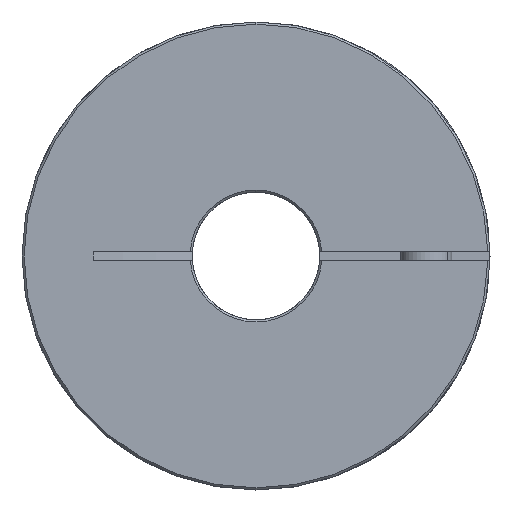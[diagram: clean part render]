
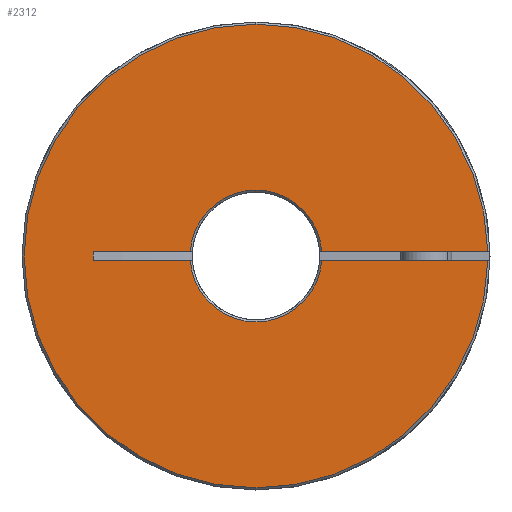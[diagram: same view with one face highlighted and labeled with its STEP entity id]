
A CAD part, left-side view. The second image highlights one B-rep face of the part: STEP entity #2312.
In plain terms, the highlighted planar face has unit normal (-1, 0, 0).
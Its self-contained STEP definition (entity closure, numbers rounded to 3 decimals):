
#17 = EDGE_CURVE ( 'NONE', #3332, #3143, #610, .T. ) ;
#56 = VERTEX_POINT ( 'NONE', #862 ) ;
#79 = EDGE_CURVE ( 'NONE', #56, #97, #1018, .T. ) ;
#82 = ORIENTED_EDGE ( 'NONE', *, *, #271, .F. ) ;
#85 = EDGE_CURVE ( 'NONE', #256, #925, #1086, .T. ) ;
#97 = VERTEX_POINT ( 'NONE', #1183 ) ;
#101 = ORIENTED_EDGE ( 'NONE', *, *, #79, .F. ) ;
#113 = VERTEX_POINT ( 'NONE', #1307 ) ;
#118 = EDGE_CURVE ( 'NONE', #227, #119, #1330, .T. ) ;
#119 = VERTEX_POINT ( 'NONE', #1352 ) ;
#128 = EDGE_CURVE ( 'NONE', #56, #113, #1441, .T. ) ;
#152 = ORIENTED_EDGE ( 'NONE', *, *, #128, .T. ) ;
#200 = EDGE_CURVE ( 'NONE', #925, #227, #2050, .T. ) ;
#216 = ORIENTED_EDGE ( 'NONE', *, *, #85, .T. ) ;
#224 = ORIENTED_EDGE ( 'NONE', *, *, #200, .T. ) ;
#227 = VERTEX_POINT ( 'NONE', #2292 ) ;
#256 = VERTEX_POINT ( 'NONE', #2451 ) ;
#271 = EDGE_CURVE ( 'NONE', #256, #113, #2575, .T. ) ;
#454 = ORIENTED_EDGE ( 'NONE', *, *, #118, .T. ) ;
#538 = ORIENTED_EDGE ( 'NONE', *, *, #2703, .T. ) ;
#540 = CARTESIAN_POINT ( 'NONE',  ( 0., -54.491, 1. ) ) ;
#610 = CIRCLE ( 'NONE', #611, 54.5 ) ;
#611 = AXIS2_PLACEMENT_3D ( 'NONE', #612, #615, #616 ) ;
#612 = CARTESIAN_POINT ( 'NONE',  ( 0., 0., 0. ) ) ;
#615 = DIRECTION ( 'NONE',  ( -1., 0., 0. ) ) ;
#616 = DIRECTION ( 'NONE',  ( 0., 0., -1. ) ) ;
#679 = LINE ( 'NONE', #680, #681 ) ;
#680 = CARTESIAN_POINT ( 'NONE',  ( 0., 15., 1. ) ) ;
#681 = VECTOR ( 'NONE', #682, 1000. ) ;
#682 = DIRECTION ( 'NONE',  ( 0., -1., 0. ) ) ;
#862 = CARTESIAN_POINT ( 'NONE',  ( 0., -15.468, -1. ) ) ;
#925 = VERTEX_POINT ( 'NONE', #1291 ) ;
#1018 = LINE ( 'NONE', #1019, #1020 ) ;
#1019 = CARTESIAN_POINT ( 'NONE',  ( 0., 15., -1. ) ) ;
#1020 = VECTOR ( 'NONE', #1021, 1000. ) ;
#1021 = DIRECTION ( 'NONE',  ( 0., -1., 0. ) ) ;
#1054 = ORIENTED_EDGE ( 'NONE', *, *, #17, .T. ) ;
#1086 = LINE ( 'NONE', #1087, #1088 ) ;
#1087 = CARTESIAN_POINT ( 'NONE',  ( 0., 38.303, -1. ) ) ;
#1088 = VECTOR ( 'NONE', #1089, 1000. ) ;
#1089 = DIRECTION ( 'NONE',  ( 0., 0., 1. ) ) ;
#1183 = CARTESIAN_POINT ( 'NONE',  ( 0., -54.491, -1. ) ) ;
#1291 = CARTESIAN_POINT ( 'NONE',  ( 0., 38.303, 1. ) ) ;
#1307 = CARTESIAN_POINT ( 'NONE',  ( 0., 15.468, -1. ) ) ;
#1330 = CIRCLE ( 'NONE', #1331, 15.5 ) ;
#1331 = AXIS2_PLACEMENT_3D ( 'NONE', #1332, #1333, #1334 ) ;
#1332 = CARTESIAN_POINT ( 'NONE',  ( 0., 0., 0. ) ) ;
#1333 = DIRECTION ( 'NONE',  ( 1., 0., 0. ) ) ;
#1334 = DIRECTION ( 'NONE',  ( 0., 0., -1. ) ) ;
#1352 = CARTESIAN_POINT ( 'NONE',  ( 0., 0., 15.5 ) ) ;
#1441 = CIRCLE ( 'NONE', #1442, 15.5 ) ;
#1442 = AXIS2_PLACEMENT_3D ( 'NONE', #1443, #1444, #1445 ) ;
#1443 = CARTESIAN_POINT ( 'NONE',  ( 0., 0., 0. ) ) ;
#1444 = DIRECTION ( 'NONE',  ( 1., 0., 0. ) ) ;
#1445 = DIRECTION ( 'NONE',  ( 0., 0., -1. ) ) ;
#1561 = EDGE_CURVE ( 'NONE', #3519, #3332, #1621, .T. ) ;
#1621 = CIRCLE ( 'NONE', #1622, 54.5 ) ;
#1622 = AXIS2_PLACEMENT_3D ( 'NONE', #1623, #1624, #1625 ) ;
#1623 = CARTESIAN_POINT ( 'NONE',  ( 0., 0., 0. ) ) ;
#1624 = DIRECTION ( 'NONE',  ( -1., 0., 0. ) ) ;
#1625 = DIRECTION ( 'NONE',  ( 0., 0., -1. ) ) ;
#1914 = ORIENTED_EDGE ( 'NONE', *, *, #1561, .T. ) ;
#1954 = CARTESIAN_POINT ( 'NONE',  ( 0., -15.468, 1. ) ) ;
#2018 = CIRCLE ( 'NONE', #2019, 15.5 ) ;
#2019 = AXIS2_PLACEMENT_3D ( 'NONE', #2020, #2021, #2022 ) ;
#2020 = CARTESIAN_POINT ( 'NONE',  ( 0., 0., 0. ) ) ;
#2021 = DIRECTION ( 'NONE',  ( 1., 0., 0. ) ) ;
#2022 = DIRECTION ( 'NONE',  ( 0., 0., -1. ) ) ;
#2025 = VERTEX_POINT ( 'NONE', #1954 ) ;
#2050 = LINE ( 'NONE', #2051, #2052 ) ;
#2051 = CARTESIAN_POINT ( 'NONE',  ( 0., 15., 1. ) ) ;
#2052 = VECTOR ( 'NONE', #2053, 1000. ) ;
#2053 = DIRECTION ( 'NONE',  ( 0., -1., 0. ) ) ;
#2059 = FACE_OUTER_BOUND ( 'NONE', #2080, .T. ) ;
#2060 = PLANE ( 'NONE',  #2061 ) ;
#2061 = AXIS2_PLACEMENT_3D ( 'NONE', #2062, #2064, #2065 ) ;
#2062 = CARTESIAN_POINT ( 'NONE',  ( 0., 15., 0. ) ) ;
#2064 = DIRECTION ( 'NONE',  ( 1., 0., 0. ) ) ;
#2065 = DIRECTION ( 'NONE',  ( 0., 0., -1. ) ) ;
#2080 = EDGE_LOOP ( 'NONE', ( #224, #454, #2608, #3566, #1914, #1054, #538, #101, #152, #82, #216 ) ) ;
#2237 = EDGE_CURVE ( 'NONE', #119, #2025, #2018, .T. ) ;
#2273 = CIRCLE ( 'NONE', #2274, 54.5 ) ;
#2274 = AXIS2_PLACEMENT_3D ( 'NONE', #2275, #2278, #2279 ) ;
#2275 = CARTESIAN_POINT ( 'NONE',  ( 0., 0., 0. ) ) ;
#2278 = DIRECTION ( 'NONE',  ( -1., 0., 0. ) ) ;
#2279 = DIRECTION ( 'NONE',  ( 0., 0., -1. ) ) ;
#2292 = CARTESIAN_POINT ( 'NONE',  ( 0., 15.468, 1. ) ) ;
#2312 = ADVANCED_FACE ( 'NONE', ( #2059 ), #2060, .F. ) ;
#2451 = CARTESIAN_POINT ( 'NONE',  ( 0., 38.303, -1. ) ) ;
#2499 = CARTESIAN_POINT ( 'NONE',  ( 0., 0., -54.5 ) ) ;
#2575 = LINE ( 'NONE', #2576, #2577 ) ;
#2576 = CARTESIAN_POINT ( 'NONE',  ( 0., 15., -1. ) ) ;
#2577 = VECTOR ( 'NONE', #2578, 1000. ) ;
#2578 = DIRECTION ( 'NONE',  ( 0., -1., 0. ) ) ;
#2608 = ORIENTED_EDGE ( 'NONE', *, *, #2237, .T. ) ;
#2630 = CARTESIAN_POINT ( 'NONE',  ( 0., 0., 54.5 ) ) ;
#2703 = EDGE_CURVE ( 'NONE', #3143, #97, #2273, .T. ) ;
#3143 = VERTEX_POINT ( 'NONE', #2499 ) ;
#3332 = VERTEX_POINT ( 'NONE', #2630 ) ;
#3519 = VERTEX_POINT ( 'NONE', #540 ) ;
#3539 = EDGE_CURVE ( 'NONE', #2025, #3519, #679, .T. ) ;
#3566 = ORIENTED_EDGE ( 'NONE', *, *, #3539, .T. ) ;
